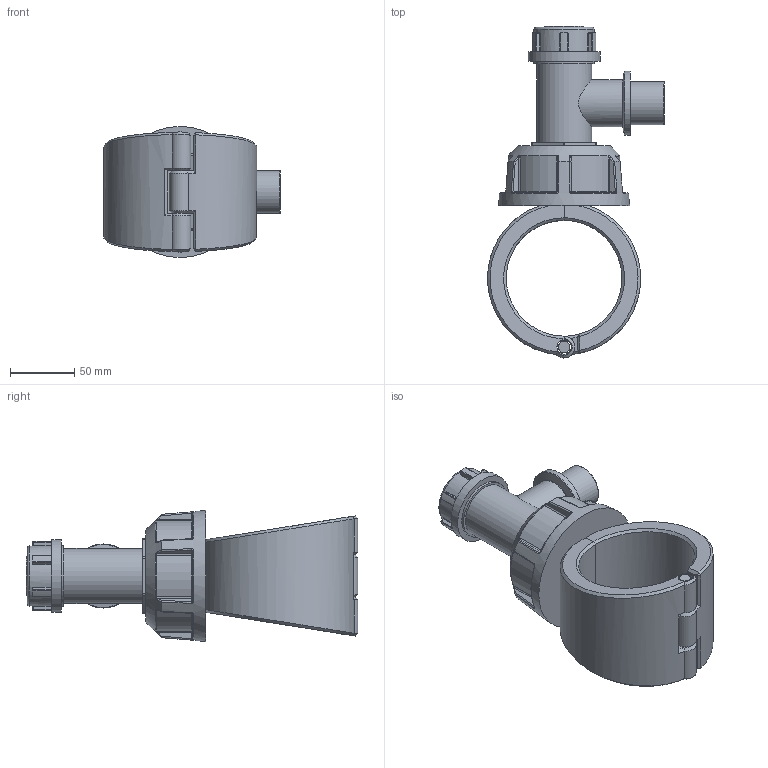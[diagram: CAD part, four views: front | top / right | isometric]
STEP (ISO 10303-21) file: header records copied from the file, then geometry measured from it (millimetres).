
FILE_DESCRIPTION(/* description */ ('Plassadle Tapper Male 90x1'''''),/* implementation_level */ '2;1');
FILE_NAME(/* name */ 'C:\Users\comp2\Dropbox\99-16-3568-Processing\Mechanical Fittings\1631R\stp\1631R0090010.stp',/* time_stamp */ '2022-02-03T12:06:18+00:00',/* author */ ('comp2'),/* organization */ (''),/* preprocessor_version */ 'ST-DEVELOPER v17.2',/* originating_system */ 'Autodesk Inventor 2019',/* authorisation */ '');
FILE_SCHEMA (('AUTOMOTIVE_DESIGN { 1 0 10303 214 3 1 1 }'));
Length unit declared in the file: millimetre
Products named in the file (1): 1631R0090010
Bounding box: 137.49 x 257.99 x 102 mm (x, y, z)
Volume: 838367 mm3; surface area: 121087.3 mm2
Topology: 4 solids, 4 shells, 341 faces, 833 edges, 509 vertices
Faces by surface type: cylinder 110, plane 82, bspline 70, torus 40, sphere 24, cone 15
Full cylindrical faces by diameter (mm): 9.08 x1, 11.08 x3, 24.937 x1, 30.6 x1, 33.249 x1, 36.574 x1, 42.84 x1, 46.84 x2, 49.873 x1, 56.1 x1
Entity records: 13200 total; most frequent: CARTESIAN_POINT 5562, ORIENTED_EDGE 1666, DIRECTION 1492, EDGE_CURVE 833, AXIS2_PLACEMENT_3D 627, VERTEX_POINT 509, EDGE_LOOP 356, FACE_OUTER_BOUND 341
